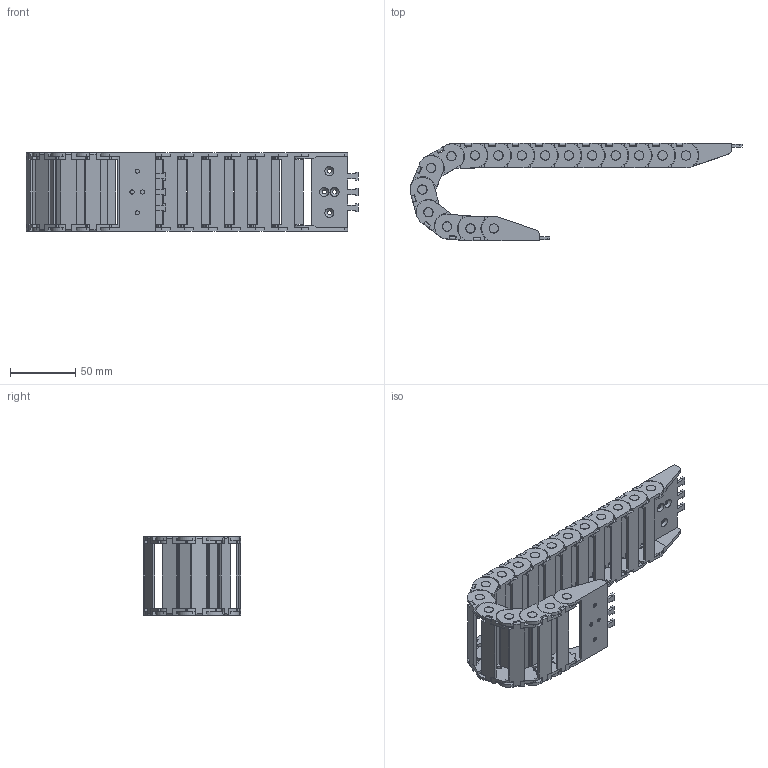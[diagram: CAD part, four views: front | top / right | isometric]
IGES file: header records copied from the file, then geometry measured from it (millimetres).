
Global section: file name: No Iges File Name specified; native system: Autodesk Inventor 2012; preprocessor: AutoDesk Inventor Iges Exporter R2012; author: cho; date: 20151015.235348; units: millimetre
Bounding box: 254.87 x 75.03 x 60.4 mm (x, y, z)
Volume: 97688.2 mm3; surface area: 104114.8 mm2
Topology: 34 solids, 34 shells, 1346 faces, 3734 edges, 2490 vertices
Faces by surface type: plane 948, cylinder 266, revolution 132
Full cylindrical faces by diameter (mm): 7 x32, 7.2 x2
